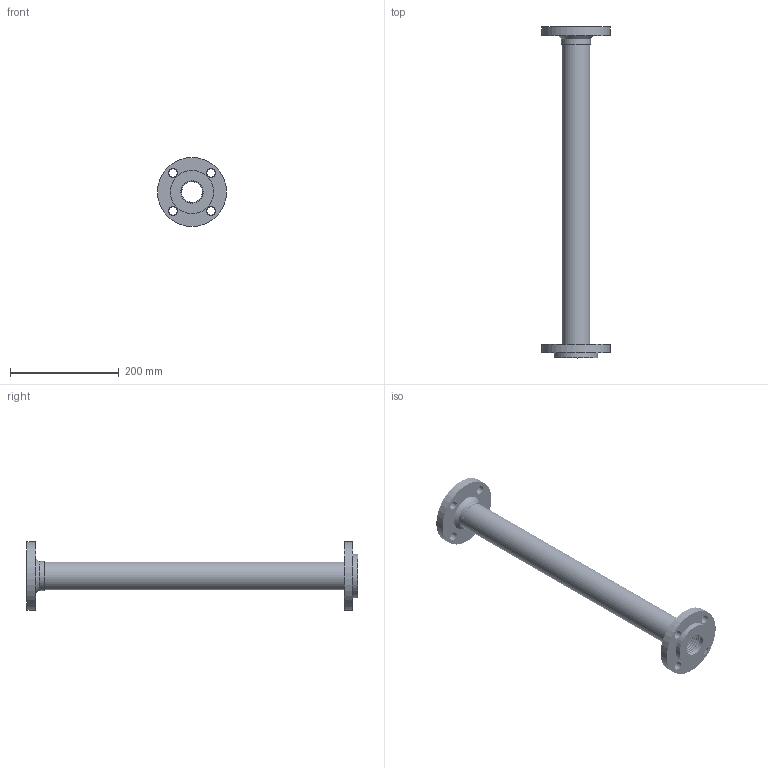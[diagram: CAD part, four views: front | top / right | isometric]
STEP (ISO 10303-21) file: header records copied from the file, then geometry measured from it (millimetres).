
FILE_DESCRIPTION((''),'2;1');
FILE_NAME('C:\REVIT SHARED FILES\STP\FFL1_5x24ASA150.stp','2013-06-14T14:00:33',('rramoutar'),(''),'Autodesk Inventor 2012','Autodesk Inventor 2012','');
FILE_SCHEMA(('AUTOMOTIVE_DESIGN { 1 0 10303 214 1 1 1 1 }'));
Length unit declared in the file: inch
Products named in the file (8): FFL 1.5x24 PER A-30305-3; FFL 1.5x24 PER A-30305-3_Welds; A-30302-2 FIXED FLANGE 1.5 inch 150 #; A-30303-1 FLOATING FLANGE 1.5 inch 150 #; A-30304-2 FFL WELDED WASHER 1.5 inch 150 #; A-29781-7 1.5 inch braid collar; FFL 1.5x24 BRAID; FFL 1.5x24 STAINLESS HOSE
Assembly tree (8 placements, depth 2):
  FFL 1.5x24 PER A-30305-3
    FFL 1.5x24 PER A-30305-3_Welds
    A-30302-2 FIXED FLANGE 1.5 inch 150 #
    A-30303-1 FLOATING FLANGE 1.5 inch 150 #
    A-30304-2 FFL WELDED WASHER 1.5 inch 150 #
    A-29781-7 1.5 inch braid collar  x2
    FFL 1.5x24 BRAID
    FFL 1.5x24 STAINLESS HOSE
Bounding box: 126.52 x 609.6 x 126.52 mm (x, y, z)
Volume: 467355.9 mm3; surface area: 781353.2 mm2
Topology: 9 solids, 9 shells, 1013 faces, 1545 edges, 1033 vertices
Faces by surface type: plane 501, torus 486, cylinder 23, cone 2, bspline 1
Full cylindrical faces by diameter (mm): 15.875 x8, 41.275 x2, 50.8 x1, 51.511 x3, 53.892 x4, 60.325 x1, 73.025 x1, 79.375 x1, 127 x2
Entity records: 20814 total; most frequent: DIRECTION 4082, CARTESIAN_POINT 3249, ORIENTED_EDGE 2044, AXIS2_PLACEMENT_3D 2041, EDGE_LOOP 2033, FACE_BOUND 1024, EDGE_CURVE 1022, VERTEX_POINT 1021
